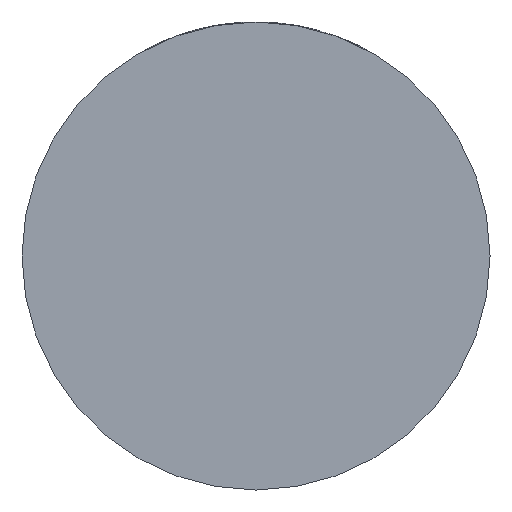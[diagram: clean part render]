
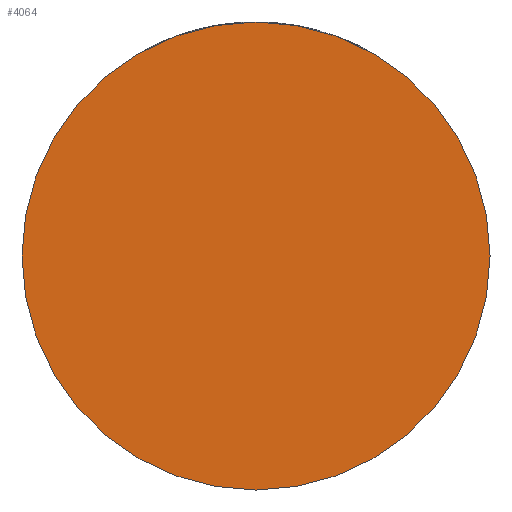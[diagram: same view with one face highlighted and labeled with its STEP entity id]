
A CAD part, front view. The second image highlights one B-rep face of the part: STEP entity #4064.
In plain terms, the highlighted planar face has unit normal (0, -1, 0).
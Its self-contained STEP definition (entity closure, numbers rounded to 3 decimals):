
#205 = ORIENTED_EDGE ( 'NONE', *, *, #3254, .T. ) ;
#418 = CARTESIAN_POINT ( 'NONE',  ( 0., -36., 0. ) ) ;
#443 = FACE_OUTER_BOUND ( 'NONE', #2044, .T. ) ;
#793 = CARTESIAN_POINT ( 'NONE',  ( 0., -36., 0. ) ) ;
#1204 = CARTESIAN_POINT ( 'NONE',  ( 39., -36., 0. ) ) ;
#1278 = CARTESIAN_POINT ( 'NONE',  ( 0., -36., 0. ) ) ;
#1549 = CIRCLE ( 'NONE', #3380, 39. ) ;
#1697 = CIRCLE ( 'NONE', #2075, 39. ) ;
#1778 = EDGE_CURVE ( 'NONE', #2135, #4010, #1697, .T. ) ;
#1826 = DIRECTION ( 'NONE',  ( 1., 0., 0. ) ) ;
#2044 = EDGE_LOOP ( 'NONE', ( #2476, #205 ) ) ;
#2075 = AXIS2_PLACEMENT_3D ( 'NONE', #1278, #2668, #3281 ) ;
#2135 = VERTEX_POINT ( 'NONE', #2645 ) ;
#2191 = DIRECTION ( 'NONE',  ( 0., -1., 0. ) ) ;
#2476 = ORIENTED_EDGE ( 'NONE', *, *, #1778, .T. ) ;
#2509 = AXIS2_PLACEMENT_3D ( 'NONE', #418, #3931, #1826 ) ;
#2595 = DIRECTION ( 'NONE',  ( 1., 0., 0. ) ) ;
#2645 = CARTESIAN_POINT ( 'NONE',  ( -39., -36., 0. ) ) ;
#2668 = DIRECTION ( 'NONE',  ( 0., -1., 0. ) ) ;
#3254 = EDGE_CURVE ( 'NONE', #4010, #2135, #1549, .T. ) ;
#3281 = DIRECTION ( 'NONE',  ( 1., 0., 0. ) ) ;
#3380 = AXIS2_PLACEMENT_3D ( 'NONE', #793, #2191, #2595 ) ;
#3565 = PLANE ( 'NONE',  #2509 ) ;
#3931 = DIRECTION ( 'NONE',  ( 0., -1., 0. ) ) ;
#4010 = VERTEX_POINT ( 'NONE', #1204 ) ;
#4064 = ADVANCED_FACE ( 'NONE', ( #443 ), #3565, .T. ) ;
